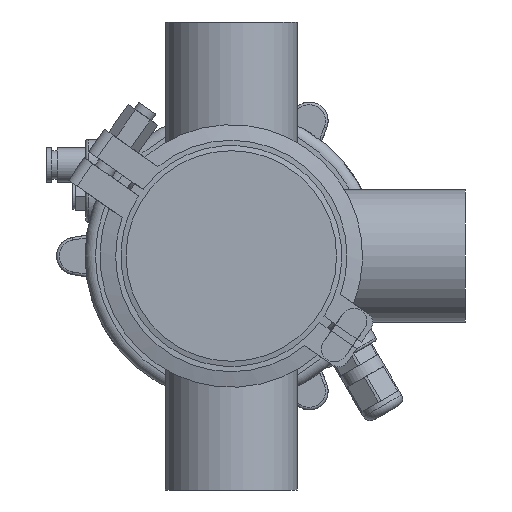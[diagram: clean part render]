
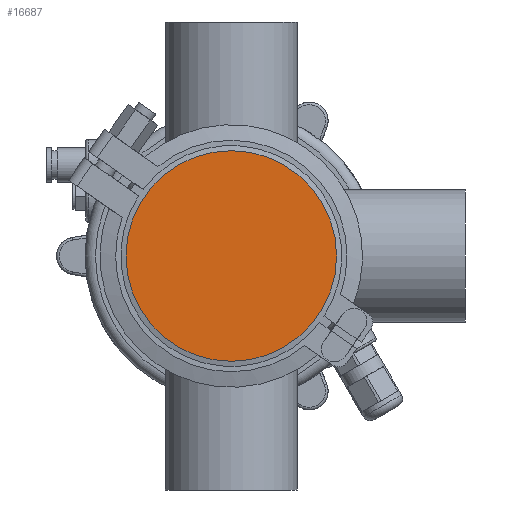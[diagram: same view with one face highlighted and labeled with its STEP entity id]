
A CAD part, front view. The second image highlights one B-rep face of the part: STEP entity #16687.
In plain terms, the highlighted planar face has unit normal (0, -1, 0).
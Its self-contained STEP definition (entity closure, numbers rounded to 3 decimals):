
#4073 = FACE_OUTER_BOUND ( 'NONE', #55897, .T. ) ;
#14404 = EDGE_CURVE ( 'NONE', #47264, #47264, #18661, .T. ) ;
#16687 = ADVANCED_FACE ( 'NONE', ( #4073 ), #22644, .T. ) ;
#17657 = DIRECTION ( 'NONE',  ( 0., 1., 0. ) ) ;
#18661 = CIRCLE ( 'NONE', #30521, 40.5 ) ;
#22644 = PLANE ( 'NONE',  #56260 ) ;
#27639 = CARTESIAN_POINT ( 'NONE',  ( -40.5, 0., 0. ) ) ;
#27888 = CARTESIAN_POINT ( 'NONE',  ( 0., 0., 0. ) ) ;
#30521 = AXIS2_PLACEMENT_3D ( 'NONE', #27888, #17657, #32838 ) ;
#32838 = DIRECTION ( 'NONE',  ( 0., 0., 1. ) ) ;
#36774 = CARTESIAN_POINT ( 'NONE',  ( 0., 0., 40.5 ) ) ;
#41538 = DIRECTION ( 'NONE',  ( 0., 0., -1. ) ) ;
#47264 = VERTEX_POINT ( 'NONE', #36774 ) ;
#48223 = ORIENTED_EDGE ( 'NONE', *, *, #14404, .F. ) ;
#55808 = DIRECTION ( 'NONE',  ( 0., -1., 0. ) ) ;
#55897 = EDGE_LOOP ( 'NONE', ( #48223 ) ) ;
#56260 = AXIS2_PLACEMENT_3D ( 'NONE', #27639, #55808, #41538 ) ;
